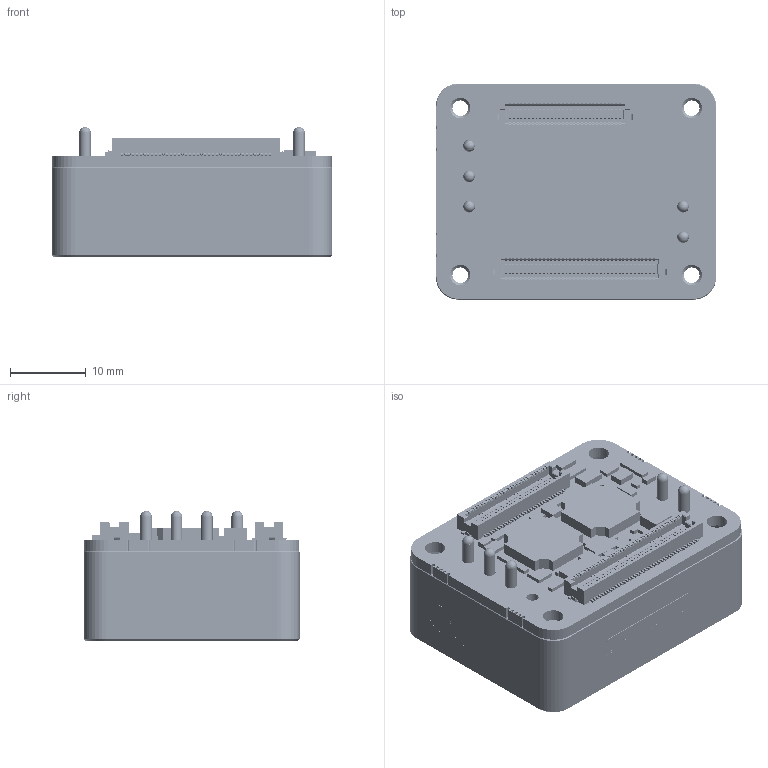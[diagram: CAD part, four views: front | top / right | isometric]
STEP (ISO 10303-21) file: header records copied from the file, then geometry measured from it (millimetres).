
FILE_DESCRIPTION (( 'STEP AP214' ), '1' );
FILE_NAME ('EVS-S-NET-E_PUBLIC.STEP', '2024-08-22T13:21:04', ( '' ), ( '' ), 'SwSTEP 2.0', 'SolidWorks 2024', '' );
FILE_SCHEMA (( 'AUTOMOTIVE_DESIGN' ));
Length unit declared in the file: millimetre
Products named in the file (5): CPP-00049; DR0059A-M2; DR0044-01H1_PUBLIC; EVS-S-NET-E_PUBLIC; DR0050A-H4_PUBLIC
Assembly tree (4 placements, depth 2):
  EVS-S-NET-E_PUBLIC
    DR0059A-M2
    DR0050A-H4_PUBLIC
    DR0044-01H1_PUBLIC
    CPP-00049
Bounding box: 36.95 x 28.55 x 17.14 mm (x, y, z)
Volume: 6253.9 mm3; surface area: 12335.9 mm2
Topology: 56 solids, 56 shells, 16829 faces, 47656 edges, 31369 vertices
Faces by surface type: plane 13932, cylinder 2497, bspline 264, cone 126, sphere 10
Entity records: 723039 total; most frequent: CARTESIAN_POINT 111229, ORIENTED_EDGE 95262, DIRECTION 85315, EDGE_CURVE 47631, LINE 41891, VECTOR 41891, VERTEX_POINT 31354, AXIS2_PLACEMENT_3D 21712
